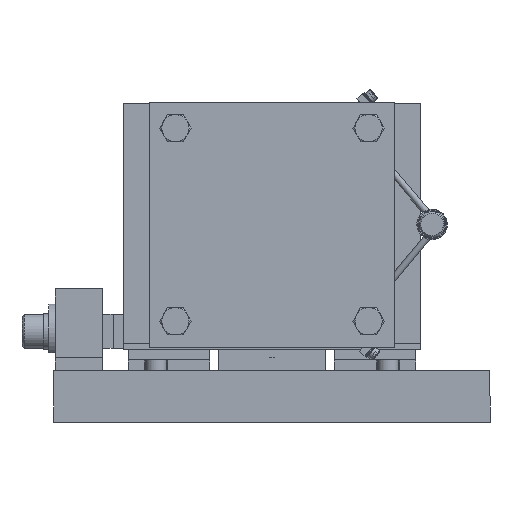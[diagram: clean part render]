
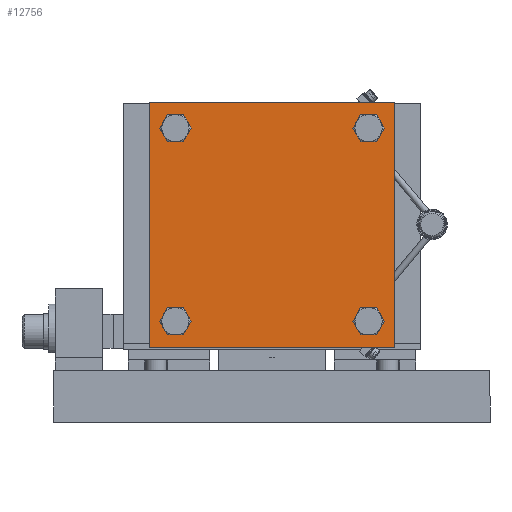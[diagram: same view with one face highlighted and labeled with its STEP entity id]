
A CAD part, front view. The second image highlights one B-rep face of the part: STEP entity #12756.
In plain terms, the highlighted planar face has unit normal (0, -1, 0) as drawn and (0, 0, 1) by its records, which use the part's own axes.
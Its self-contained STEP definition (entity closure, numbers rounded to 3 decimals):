
#756=LINE($,#19780,#1788);
#760=LINE($,#19788,#1792);
#763=LINE($,#19794,#1795);
#766=LINE($,#19799,#1798);
#1788=VECTOR($,#15730,114.3);
#1792=VECTOR($,#15736,114.3);
#1795=VECTOR($,#15741,114.3);
#1798=VECTOR($,#15746,114.3);
#2743=PLANE($,#13798);
#3254=FACE_BOUND($,#4927,.T.);
#3255=FACE_BOUND($,#4928,.T.);
#3256=FACE_BOUND($,#4929,.T.);
#3257=FACE_BOUND($,#4930,.T.);
#3991=FACE_OUTER_BOUND($,#4926,.T.);
#4926=EDGE_LOOP($,(#9870,#9871,#9872,#9873));
#4927=EDGE_LOOP($,(#9874));
#4928=EDGE_LOOP($,(#9875));
#4929=EDGE_LOOP($,(#9876));
#4930=EDGE_LOOP($,(#9877));
#6010=CIRCLE($,#13776,4.25);
#6012=CIRCLE($,#13779,4.25);
#6014=CIRCLE($,#13782,4.25);
#6016=CIRCLE($,#13785,4.25);
#6651=VERTEX_POINT($,#19748);
#6653=VERTEX_POINT($,#19753);
#6655=VERTEX_POINT($,#19758);
#6657=VERTEX_POINT($,#19763);
#6662=VERTEX_POINT($,#19778);
#6663=VERTEX_POINT($,#19779);
#6666=VERTEX_POINT($,#19787);
#6668=VERTEX_POINT($,#19793);
#7907=EDGE_CURVE($,#6651,#6651,#6010,.T.);
#7909=EDGE_CURVE($,#6653,#6653,#6012,.T.);
#7911=EDGE_CURVE($,#6655,#6655,#6014,.T.);
#7913=EDGE_CURVE($,#6657,#6657,#6016,.T.);
#7918=EDGE_CURVE($,#6662,#6663,#756,.T.);
#7922=EDGE_CURVE($,#6663,#6666,#760,.T.);
#7925=EDGE_CURVE($,#6666,#6668,#763,.T.);
#7928=EDGE_CURVE($,#6668,#6662,#766,.T.);
#9870=ORIENTED_EDGE($,*,*,#7918,.F.);
#9871=ORIENTED_EDGE($,*,*,#7928,.F.);
#9872=ORIENTED_EDGE($,*,*,#7925,.F.);
#9873=ORIENTED_EDGE($,*,*,#7922,.F.);
#9874=ORIENTED_EDGE($,*,*,#7907,.T.);
#9875=ORIENTED_EDGE($,*,*,#7909,.T.);
#9876=ORIENTED_EDGE($,*,*,#7911,.T.);
#9877=ORIENTED_EDGE($,*,*,#7913,.T.);
#12756=ADVANCED_FACE($,(#3991,#3254,#3255,#3256,#3257),#2743,.T.);
#13776=AXIS2_PLACEMENT_3D($,#19749,#15692,#15693);
#13779=AXIS2_PLACEMENT_3D($,#19754,#15698,#15699);
#13782=AXIS2_PLACEMENT_3D($,#19759,#15704,#15705);
#13785=AXIS2_PLACEMENT_3D($,#19764,#15710,#15711);
#13798=AXIS2_PLACEMENT_3D($,#19801,#15748,#15749);
#15692=DIRECTION('center_axis',(0.,0.,-1.));
#15693=DIRECTION('ref_axis',(1.,0.,0.));
#15698=DIRECTION('center_axis',(0.,0.,-1.));
#15699=DIRECTION('ref_axis',(1.,0.,0.));
#15704=DIRECTION('center_axis',(0.,0.,-1.));
#15705=DIRECTION('ref_axis',(1.,0.,0.));
#15710=DIRECTION('center_axis',(0.,0.,-1.));
#15711=DIRECTION('ref_axis',(1.,0.,0.));
#15730=DIRECTION($,(0.,-1.,0.));
#15736=DIRECTION($,(-1.,0.,0.));
#15741=DIRECTION($,(0.,1.,0.));
#15746=DIRECTION($,(1.,0.,0.));
#15748=DIRECTION('center_axis',(0.,0.,1.));
#15749=DIRECTION('ref_axis',(1.,0.,0.));
#19748=CARTESIAN_POINT('',(49.25,-45.,30.));
#19749=CARTESIAN_POINT('Origin',(45.,-45.,30.));
#19753=CARTESIAN_POINT('',(49.25,45.,30.));
#19754=CARTESIAN_POINT('Origin',(45.,45.,30.));
#19758=CARTESIAN_POINT('',(-40.75,45.,30.));
#19759=CARTESIAN_POINT('Origin',(-45.,45.,30.));
#19763=CARTESIAN_POINT('',(-40.75,-45.,30.));
#19764=CARTESIAN_POINT('Origin',(-45.,-45.,30.));
#19778=CARTESIAN_POINT('',(57.15,57.15,30.));
#19779=CARTESIAN_POINT('',(57.15,-57.15,30.));
#19780=CARTESIAN_POINT($,(57.15,57.15,30.));
#19787=CARTESIAN_POINT('',(-57.15,-57.15,30.));
#19788=CARTESIAN_POINT($,(57.15,-57.15,30.));
#19793=CARTESIAN_POINT('',(-57.15,57.15,30.));
#19794=CARTESIAN_POINT($,(-57.15,-57.15,30.));
#19799=CARTESIAN_POINT($,(-57.15,57.15,30.));
#19801=CARTESIAN_POINT('Origin',(0.,0.,
30.));
